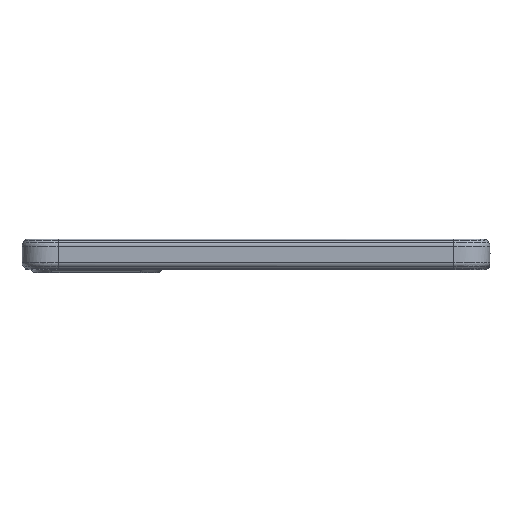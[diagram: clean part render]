
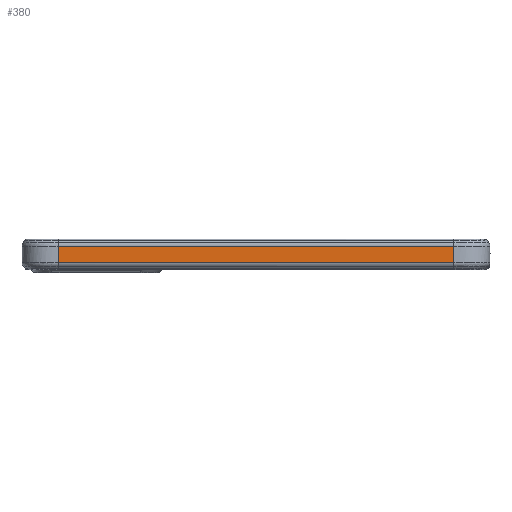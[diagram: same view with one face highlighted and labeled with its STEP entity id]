
A CAD part, left-side view. The second image highlights one B-rep face of the part: STEP entity #380.
In plain terms, the highlighted planar face has unit normal (-1, 0, 0).
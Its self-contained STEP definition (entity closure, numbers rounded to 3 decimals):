
#380=ADVANCED_FACE('',(#1007),#9190,.T.);
#1007=FACE_OUTER_BOUND('',#1647,.T.);
#1647=EDGE_LOOP('',(#3427,#3428,#3429,#3430));
#3427=ORIENTED_EDGE('',*,*,#5664,.T.);
#3428=ORIENTED_EDGE('',*,*,#5665,.T.);
#3429=ORIENTED_EDGE('',*,*,#5667,.F.);
#3430=ORIENTED_EDGE('',*,*,#5307,.T.);
#5307=EDGE_CURVE('',#8118,#8115,#7142,.T.);
#5664=EDGE_CURVE('',#8115,#8205,#7369,.T.);
#5665=EDGE_CURVE('',#8205,#8204,#7370,.T.);
#5667=EDGE_CURVE('',#8118,#8204,#7371,.T.);
#7142=B_SPLINE_CURVE_WITH_KNOTS('',1,(#42785,#42786),.UNSPECIFIED.,.F.,
 .F.,(2,2),(0.,5.852),.UNSPECIFIED.);
#7369=B_SPLINE_CURVE_WITH_KNOTS('',1,(#45636,#45637),.UNSPECIFIED.,.F.,
 .F.,(2,2),(-140.99,0.),.UNSPECIFIED.);
#7370=B_SPLINE_CURVE_WITH_KNOTS('',1,(#45638,#45639),.UNSPECIFIED.,.F.,
 .F.,(2,2),(-5.852,0.),.UNSPECIFIED.);
#7371=B_SPLINE_CURVE_WITH_KNOTS('',1,(#45643,#45644),.UNSPECIFIED.,.F.,
 .F.,(2,2),(-140.99,0.),.UNSPECIFIED.);
#8115=VERTEX_POINT('',#40228);
#8118=VERTEX_POINT('',#40231);
#8204=VERTEX_POINT('',#40317);
#8205=VERTEX_POINT('',#40318);
#9190=PLANE('',#9436);
#9436=AXIS2_PLACEMENT_3D('',#25130,#9613,$);
#9613=DIRECTION('',(-1.,0.,0.));
#25130=CARTESIAN_POINT('',(-39.05,84.865,-1.188));
#40228=CARTESIAN_POINT('',(-39.05,70.73,-7.661));
#40231=CARTESIAN_POINT('',(-39.05,70.73,-1.809));
#40317=CARTESIAN_POINT('',(-39.05,-70.26,-1.809));
#40318=CARTESIAN_POINT('',(-39.05,-70.26,-7.661));
#42785=CARTESIAN_POINT('',(-39.05,70.73,-1.809));
#42786=CARTESIAN_POINT('',(-39.05,70.73,-7.661));
#45636=CARTESIAN_POINT('',(-39.05,70.73,-7.661));
#45637=CARTESIAN_POINT('',(-39.05,-70.26,-7.661));
#45638=CARTESIAN_POINT('',(-39.05,-70.26,-7.661));
#45639=CARTESIAN_POINT('',(-39.05,-70.26,-1.809));
#45643=CARTESIAN_POINT('',(-39.05,70.73,-1.809));
#45644=CARTESIAN_POINT('',(-39.05,-70.26,-1.809));
